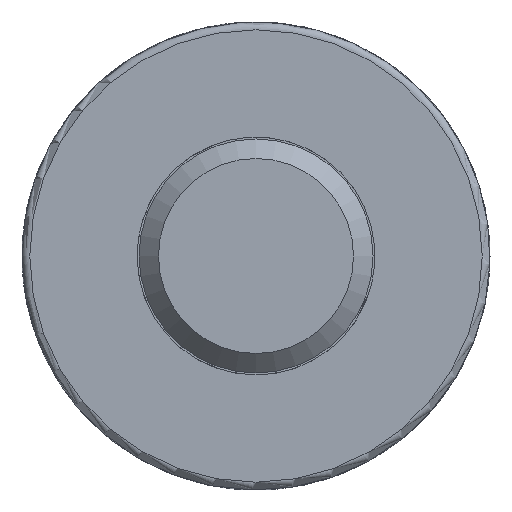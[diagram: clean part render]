
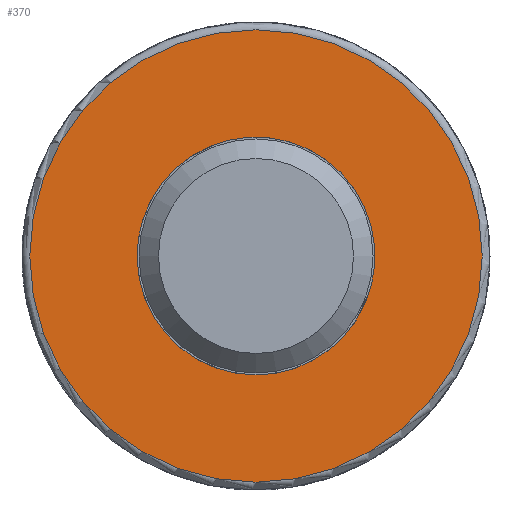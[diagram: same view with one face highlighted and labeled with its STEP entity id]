
A CAD part, front view. The second image highlights one B-rep face of the part: STEP entity #370.
In plain terms, the highlighted planar face has unit normal (0, -1, 0).
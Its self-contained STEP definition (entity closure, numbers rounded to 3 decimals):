
#327=FACE_BOUND('',#513,.T.);
#328=FACE_BOUND('',#514,.T.);
#370=ADVANCED_FACE('',(#327,#328),#410,.T.);
#410=PLANE('',#1175);
#513=EDGE_LOOP('',(#741));
#514=EDGE_LOOP('',(#742));
#741=ORIENTED_EDGE('',*,*,#1068,.T.);
#742=ORIENTED_EDGE('',*,*,#1063,.T.);
#931=VERTEX_POINT('',#2639);
#932=VERTEX_POINT('',#2646);
#1063=EDGE_CURVE('',#931,#931,#1093,.T.);
#1068=EDGE_CURVE('',#932,#932,#1098,.T.);
#1093=CIRCLE('',#1168,3.05);
#1098=CIRCLE('',#1174,5.8);
#1168=AXIS2_PLACEMENT_3D('',#2638,#1375,#1376);
#1174=AXIS2_PLACEMENT_3D('',#2645,#1387,#1388);
#1175=AXIS2_PLACEMENT_3D('',#2647,#1389,#1390);
#1375=DIRECTION('',(0.,1.,0.));
#1376=DIRECTION('',(0.,0.,-1.));
#1387=DIRECTION('',(0.,-1.,0.));
#1388=DIRECTION('',(-1.,0.,0.));
#1389=DIRECTION('',(0.,-1.,0.));
#1390=DIRECTION('',(-1.,0.,0.));
#2638=CARTESIAN_POINT('',(0.,-19.,0.));
#2639=CARTESIAN_POINT('',(0.,-19.,-3.05));
#2645=CARTESIAN_POINT('',(0.,-19.,0.));
#2646=CARTESIAN_POINT('',(-5.8,-19.,0.));
#2647=CARTESIAN_POINT('',(0.,-19.,0.));
